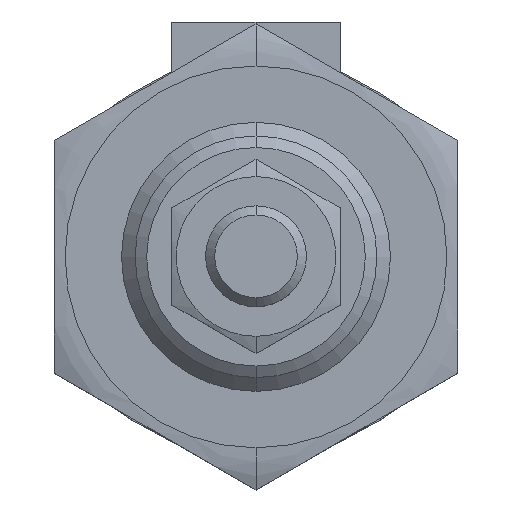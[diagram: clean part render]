
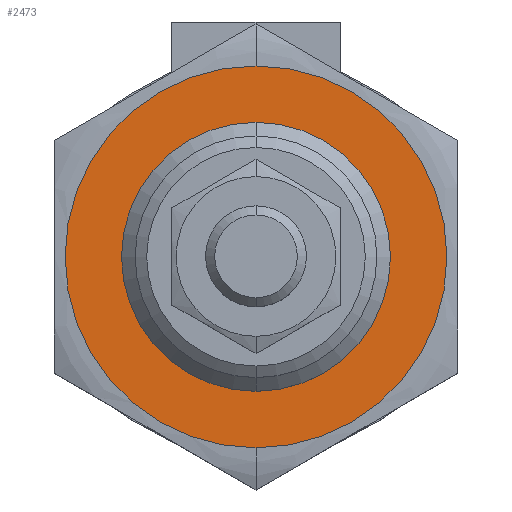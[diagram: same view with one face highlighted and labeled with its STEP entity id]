
A CAD part, top view. The second image highlights one B-rep face of the part: STEP entity #2473.
In plain terms, the highlighted planar face has unit normal (0, 0, 1).
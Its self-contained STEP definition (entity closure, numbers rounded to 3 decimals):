
#2172=CARTESIAN_POINT('',(0.,0.,0.));
#2173=DIRECTION('',(0.,0.,-1.));
#2174=DIRECTION('',(0.,1.,0.));
#2175=AXIS2_PLACEMENT_3D('',#2172,#2173,#2174);
#2177=CARTESIAN_POINT('',(0.,0.,0.));
#2178=DIRECTION('',(0.,0.,-1.));
#2179=DIRECTION('',(0.,-1.,0.));
#2180=AXIS2_PLACEMENT_3D('',#2177,#2178,#2179);
#2182=CARTESIAN_POINT('',(0.,0.,0.));
#2183=DIRECTION('',(0.,0.,-1.));
#2184=DIRECTION('',(0.,1.,0.));
#2185=AXIS2_PLACEMENT_3D('',#2182,#2183,#2184);
#2187=CARTESIAN_POINT('',(0.,0.,0.));
#2188=DIRECTION('',(0.,0.,-1.));
#2189=DIRECTION('',(0.,-1.,0.));
#2190=AXIS2_PLACEMENT_3D('',#2187,#2188,#2189);
#2426=CARTESIAN_POINT('',(0.,8.,0.));
#2427=CARTESIAN_POINT('',(0.,-8.,0.));
#2428=VERTEX_POINT('',#2426);
#2429=VERTEX_POINT('',#2427);
#2430=CARTESIAN_POINT('',(0.,11.356,0.));
#2431=CARTESIAN_POINT('',(0.,-11.356,0.));
#2432=VERTEX_POINT('',#2430);
#2433=VERTEX_POINT('',#2431);
#2456=CARTESIAN_POINT('',(0.,0.,0.));
#2457=DIRECTION('',(0.,0.,-1.));
#2458=DIRECTION('',(-1.,0.,0.));
#2459=AXIS2_PLACEMENT_3D('',#2456,#2457,#2458);
#2460=PLANE('',#2459);
#2462=ORIENTED_EDGE('',*,*,#2461,.T.);
#2464=ORIENTED_EDGE('',*,*,#2463,.T.);
#2465=EDGE_LOOP('',(#2462,#2464));
#2466=FACE_OUTER_BOUND('',#2465,.F.);
#2468=ORIENTED_EDGE('',*,*,#2467,.F.);
#2470=ORIENTED_EDGE('',*,*,#2469,.F.);
#2471=EDGE_LOOP('',(#2468,#2470));
#2472=FACE_BOUND('',#2471,.F.);
#2473=ADVANCED_FACE('',(#2466,#2472),#2460,.F.);
#2176=CIRCLE('',#2175,8.);
#2181=CIRCLE('',#2180,8.);
#2186=CIRCLE('',#2185,11.356);
#2191=CIRCLE('',#2190,11.356);
#2461=EDGE_CURVE('',#2432,#2433,#2186,.T.);
#2463=EDGE_CURVE('',#2433,#2432,#2191,.T.);
#2467=EDGE_CURVE('',#2428,#2429,#2176,.T.);
#2469=EDGE_CURVE('',#2429,#2428,#2181,.T.);
